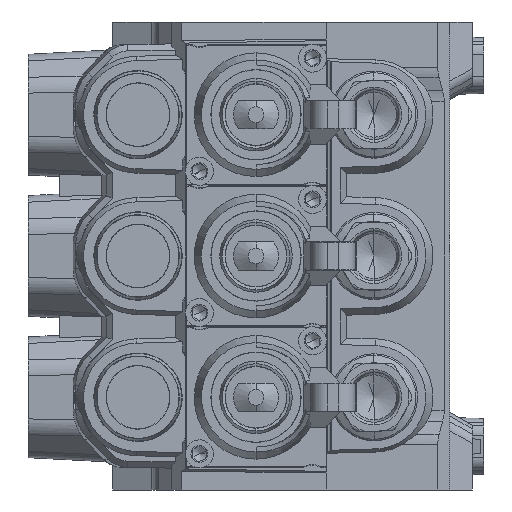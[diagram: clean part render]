
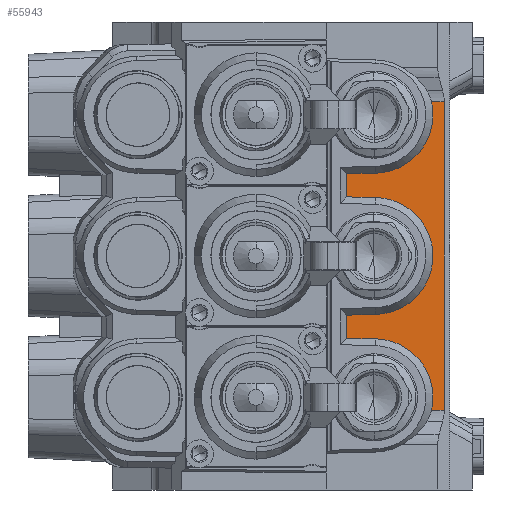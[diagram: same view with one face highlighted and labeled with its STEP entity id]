
A CAD part, left-side view. The second image highlights one B-rep face of the part: STEP entity #55943.
In plain terms, the highlighted planar face has unit normal (-1, -0.018, 0).
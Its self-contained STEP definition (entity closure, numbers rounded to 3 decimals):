
#52 = ORIENTED_EDGE ( 'NONE', *, *, #181893, .T. ) ;
#836 = DIRECTION ( 'NONE',  ( 0.017, -1., 0. ) ) ;
#872 = CARTESIAN_POINT ( 'NONE',  ( -66.105, -36.939, 54.915 ) ) ;
#1983 =( BOUNDED_CURVE ( )  B_SPLINE_CURVE ( 3, ( #32831, #99434, #65885, #196693 ),
 .UNSPECIFIED., .F., .F. ) 
 B_SPLINE_CURVE_WITH_KNOTS ( ( 4, 4 ),
 ( 4.737, 7.829 ),
 .UNSPECIFIED. ) 
 CURVE ( )  GEOMETRIC_REPRESENTATION_ITEM ( )  RATIONAL_B_SPLINE_CURVE ( ( 1., 0.35, 0.35, 1. ) ) 
 REPRESENTATION_ITEM ( '' )  );
#3139 = EDGE_CURVE ( 'NONE', #141121, #70633, #56233, .T. ) ;
#3870 = AXIS2_PLACEMENT_3D ( 'NONE', #48095, #65990, #196811 ) ;
#5569 = CARTESIAN_POINT ( 'NONE',  ( -66.041, -40.642, 41.068 ) ) ;
#8506 =( BOUNDED_CURVE ( )  B_SPLINE_CURVE ( 3, ( #137620, #184061, #103320, #202004 ),
 .UNSPECIFIED., .F., .F. ) 
 B_SPLINE_CURVE_WITH_KNOTS ( ( 4, 4 ),
 ( 4.737, 6.507 ),
 .UNSPECIFIED. ) 
 CURVE ( )  GEOMETRIC_REPRESENTATION_ITEM ( )  RATIONAL_B_SPLINE_CURVE ( ( 1., 0.756, 0.756, 1. ) ) 
 REPRESENTATION_ITEM ( '' )  );
#12069 = ORIENTED_EDGE ( 'NONE', *, *, #194299, .T. ) ;
#12636 = CARTESIAN_POINT ( 'NONE',  ( -66.621, -7.387, -29.251 ) ) ;
#19607 = DIRECTION ( 'NONE',  ( 0., 0., -1. ) ) ;
#20085 = CARTESIAN_POINT ( 'NONE',  ( -66.017, -41.983, -54.915 ) ) ;
#22027 = CARTESIAN_POINT ( 'NONE',  ( -66.441, -17.726, 29.508 ) ) ;
#25548 = CARTESIAN_POINT ( 'NONE',  ( -66.017, -41.983, -54.915 ) ) ;
#25798 = EDGE_CURVE ( 'NONE', #125988, #135609, #154165, .T. ) ;
#26403 = VECTOR ( 'NONE', #78607, 1000. ) ;
#27354 = VECTOR ( 'NONE', #19607, 1000. ) ;
#29033 = EDGE_CURVE ( 'NONE', #171253, #141121, #77081, .T. ) ;
#31765 = VERTEX_POINT ( 'NONE', #12636 ) ;
#32754 = VECTOR ( 'NONE', #97562, 1000. ) ;
#32831 = CARTESIAN_POINT ( 'NONE',  ( -66.441, -17.726, -20.792 ) ) ;
#33274 = DIRECTION ( 'NONE',  ( 0., 0., -1. ) ) ;
#33838 = EDGE_CURVE ( 'NONE', #125988, #31765, #70584, .T. ) ;
#36336 = LINE ( 'NONE', #196890, #74793 ) ;
#39161 = EDGE_CURVE ( 'NONE', #111318, #138455, #158216, .T. ) ;
#41241 = ORIENTED_EDGE ( 'NONE', *, *, #163820, .T. ) ;
#45005 = ORIENTED_EDGE ( 'NONE', *, *, #199385, .F. ) ;
#48095 = CARTESIAN_POINT ( 'NONE',  ( -64.615, -122.297, -75.3 ) ) ;
#49439 = VECTOR ( 'NONE', #836, 1000. ) ;
#52550 = ORIENTED_EDGE ( 'NONE', *, *, #107724, .F. ) ;
#52674 = CARTESIAN_POINT ( 'NONE',  ( -66.017, -41.983, 106.196 ) ) ;
#52728 = EDGE_LOOP ( 'NONE', ( #101280, #12069, #191264, #62461, #62977, #52550, #45005, #125500, #120679, #52, #56039, #41241 ) ) ;
#55943 = ADVANCED_FACE ( 'NONE', ( #207801 ), #210492, .F. ) ;
#56039 = ORIENTED_EDGE ( 'NONE', *, *, #104855, .T. ) ;
#56233 =( BOUNDED_CURVE ( )  B_SPLINE_CURVE ( 3, ( #22027, #122928, #5569, #105779 ),
 .UNSPECIFIED., .F., .F. ) 
 B_SPLINE_CURVE_WITH_KNOTS ( ( 4, 4 ),
 ( 4.737, 6.507 ),
 .UNSPECIFIED. ) 
 CURVE ( )  GEOMETRIC_REPRESENTATION_ITEM ( )  RATIONAL_B_SPLINE_CURVE ( ( 1., 0.756, 0.756, 1. ) ) 
 REPRESENTATION_ITEM ( '' )  );
#57359 = CARTESIAN_POINT ( 'NONE',  ( -66.096, -37.491, 54.915 ) ) ;
#57883 = CARTESIAN_POINT ( 'NONE',  ( -64.597, -123.368, 32.131 ) ) ;
#62461 = ORIENTED_EDGE ( 'NONE', *, *, #29033, .F. ) ;
#62977 = ORIENTED_EDGE ( 'NONE', *, *, #84340, .T. ) ;
#65885 = CARTESIAN_POINT ( 'NONE',  ( -65.749, -57.333, 19.809 ) ) ;
#65990 = DIRECTION ( 'NONE',  ( 1., 0.017, 0. ) ) ;
#70584 = LINE ( 'NONE', #145692, #114081 ) ;
#70633 = VERTEX_POINT ( 'NONE', #57359 ) ;
#74793 = VECTOR ( 'NONE', #115368, 1000. ) ;
#77081 = LINE ( 'NONE', #57883, #171627 ) ;
#77568 = CARTESIAN_POINT ( 'NONE',  ( -64.597, -123.368, -18.169 ) ) ;
#78607 = DIRECTION ( 'NONE',  ( 0., 0., -1. ) ) ;
#80015 = CARTESIAN_POINT ( 'NONE',  ( -66.621, -7.387, -21.049 ) ) ;
#84340 = EDGE_CURVE ( 'NONE', #171253, #169796, #149450, .T. ) ;
#85967 = CARTESIAN_POINT ( 'NONE',  ( -66.441, -17.726, 20.792 ) ) ;
#92299 = VERTEX_POINT ( 'NONE', #123371 ) ;
#94402 = CARTESIAN_POINT ( 'NONE',  ( -66.096, -37.491, -54.915 ) ) ;
#95728 = CARTESIAN_POINT ( 'NONE',  ( -66.621, -7.387, 25.15 ) ) ;
#95967 = VERTEX_POINT ( 'NONE', #94402 ) ;
#97562 = DIRECTION ( 'NONE',  ( -0.017, 1., 0. ) ) ;
#99434 = CARTESIAN_POINT ( 'NONE',  ( -65.749, -57.333, -19.809 ) ) ;
#101280 = ORIENTED_EDGE ( 'NONE', *, *, #39161, .F. ) ;
#103320 = CARTESIAN_POINT ( 'NONE',  ( -66.041, -40.642, -41.068 ) ) ;
#104446 = LINE ( 'NONE', #872, #32754 ) ;
#104855 = EDGE_CURVE ( 'NONE', #92299, #95967, #8506, .T. ) ;
#105779 = CARTESIAN_POINT ( 'NONE',  ( -66.096, -37.491, 54.915 ) ) ;
#107448 = DIRECTION ( 'NONE',  ( -0.017, 1., 0.025 ) ) ;
#107724 = EDGE_CURVE ( 'NONE', #187616, #169796, #149590, .T. ) ;
#110708 = VECTOR ( 'NONE', #157692, 1000. ) ;
#111318 = VERTEX_POINT ( 'NONE', #177829 ) ;
#113060 = CARTESIAN_POINT ( 'NONE',  ( -66.621, -7.387, 29.251 ) ) ;
#114081 = VECTOR ( 'NONE', #33274, 1000. ) ;
#115368 = DIRECTION ( 'NONE',  ( 0.017, -1., -0.025 ) ) ;
#120679 = ORIENTED_EDGE ( 'NONE', *, *, #33838, .T. ) ;
#122928 = CARTESIAN_POINT ( 'NONE',  ( -66.193, -31.922, 29.86 ) ) ;
#123371 = CARTESIAN_POINT ( 'NONE',  ( -66.441, -17.726, -29.508 ) ) ;
#125500 = ORIENTED_EDGE ( 'NONE', *, *, #25798, .F. ) ;
#125988 = VERTEX_POINT ( 'NONE', #80015 ) ;
#135609 = VERTEX_POINT ( 'NONE', #154682 ) ;
#137620 = CARTESIAN_POINT ( 'NONE',  ( -66.441, -17.726, -29.508 ) ) ;
#138455 = VERTEX_POINT ( 'NONE', #25548 ) ;
#140062 = DIRECTION ( 'NONE',  ( 0.017, -1., 0.025 ) ) ;
#141121 = VERTEX_POINT ( 'NONE', #209105 ) ;
#144491 = VECTOR ( 'NONE', #107448, 1000. ) ;
#145692 = CARTESIAN_POINT ( 'NONE',  ( -66.621, -7.387, 25.15 ) ) ;
#149450 = LINE ( 'NONE', #95728, #26403 ) ;
#149590 = LINE ( 'NONE', #188902, #144491 ) ;
#154165 = LINE ( 'NONE', #77568, #110708 ) ;
#154682 = CARTESIAN_POINT ( 'NONE',  ( -66.441, -17.726, -20.792 ) ) ;
#157692 = DIRECTION ( 'NONE',  ( 0.017, -1., 0.025 ) ) ;
#158216 = LINE ( 'NONE', #52674, #27354 ) ;
#163820 = EDGE_CURVE ( 'NONE', #95967, #138455, #202899, .T. ) ;
#169796 = VERTEX_POINT ( 'NONE', #195226 ) ;
#171253 = VERTEX_POINT ( 'NONE', #113060 ) ;
#171627 = VECTOR ( 'NONE', #140062, 1000. ) ;
#177829 = CARTESIAN_POINT ( 'NONE',  ( -66.017, -41.983, 54.915 ) ) ;
#181893 = EDGE_CURVE ( 'NONE', #31765, #92299, #36336, .T. ) ;
#184061 = CARTESIAN_POINT ( 'NONE',  ( -66.193, -31.922, -29.86 ) ) ;
#187616 = VERTEX_POINT ( 'NONE', #85967 ) ;
#188902 = CARTESIAN_POINT ( 'NONE',  ( -64.618, -122.128, 18.199 ) ) ;
#191264 = ORIENTED_EDGE ( 'NONE', *, *, #3139, .F. ) ;
#194299 = EDGE_CURVE ( 'NONE', #111318, #70633, #104446, .T. ) ;
#195226 = CARTESIAN_POINT ( 'NONE',  ( -66.621, -7.387, 21.049 ) ) ;
#196693 = CARTESIAN_POINT ( 'NONE',  ( -66.441, -17.726, 20.792 ) ) ;
#196811 = DIRECTION ( 'NONE',  ( -0.017, 1., 0. ) ) ;
#196890 = CARTESIAN_POINT ( 'NONE',  ( -64.597, -123.368, -32.131 ) ) ;
#199385 = EDGE_CURVE ( 'NONE', #135609, #187616, #1983, .T. ) ;
#202004 = CARTESIAN_POINT ( 'NONE',  ( -66.096, -37.491, -54.915 ) ) ;
#202899 = LINE ( 'NONE', #20085, #49439 ) ;
#207801 = FACE_OUTER_BOUND ( 'NONE', #52728, .T. ) ;
#209105 = CARTESIAN_POINT ( 'NONE',  ( -66.441, -17.726, 29.508 ) ) ;
#210492 = PLANE ( 'NONE',  #3870 ) ;
